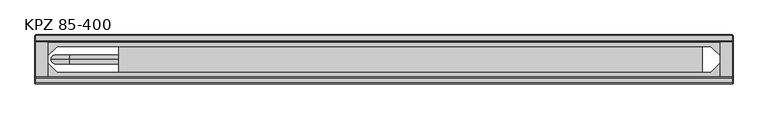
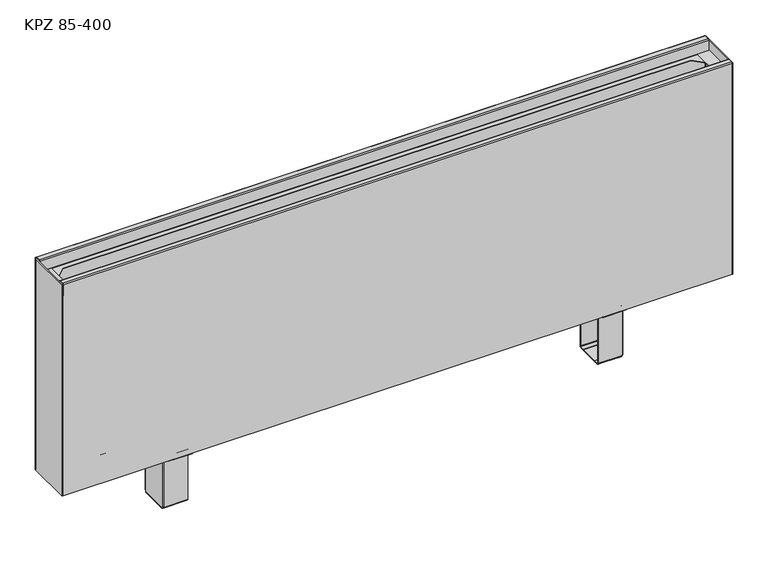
"""IFC4 building model written with IfcOpenShell, lengths in millimetres: proxy geometry, TECHNO_Конвектор напольный_Vita KPZ 85 : KPZ 85-400."""

from ifc_helpers import new_model, si_unit, point, frame, origin, place, context, project, spatial, polyline, circle_curve, ellipse_curve, trimmed, outline, extrude, source, transform, mapped, element, save
from ifc_brep_helpers import plane_surface, cylinder_surface, revolved_surface, advanced_brep


def kpz_85_400_00b2fc51(model_context):
    return source(origin(), model_context, "Body", "SolidModel", [
        advanced_brep(
        [(409.7, -116.8, 1.5), (409.7, -114.5, 3.8), (409.7, -114.5, 4.9), (409.7, -116.0, 4.9), (409.7, -116.0, 3.8), (409.7, -116.8, 3.0), (409.7, -124.5, 3.0), (409.7, -124.5, 1.5), (409.7, -117.6, 1.5), (409.7, -114.5, 97.7), (409.7, -113.7, 98.5), (409.7, -101.0, 98.5), (409.7, -101.0, 100.0), (409.7, -113.7, 100.0), (409.7, -116.0, 97.7), (409.7, -116.0, 95.5), (409.7, -114.5, 95.5), (409.7, -170.5, 3.8), (409.7, -168.2, 1.5), (409.7, -167.4, 1.5), (409.7, -160.5, 1.5), (409.7, -160.5, 3.0), (409.7, -168.2, 3.0), (409.7, -169.0, 3.8), (409.7, -169.0, 4.9), (409.7, -170.5, 4.9), (409.7, -169.0, 97.7), (409.7, -171.3, 100.0), (409.7, -184.0, 100.0), (409.7, -184.0, 98.5), (409.7, -171.3, 98.5), (409.7, -170.5, 97.7), (409.7, -170.5, 95.5), (409.7, -169.0, 95.5), (367.0, -170.5, 97.7), (367.0, -171.3, 98.5), (367.0, -184.0, 98.5), (367.0, -184.0, 100.0), (367.0, -171.3, 100.0), (367.0, -169.0, 97.7), (367.0, -169.0, 3.8), (367.0, -168.2, 3.0), (367.0, -160.5, 3.0), (367.0, -160.5, 1.5), (367.0, -124.5, 1.5), (367.0, -124.5, 3.0), (367.0, -116.8, 3.0), (367.0, -116.0, 3.8), (367.0, -116.0, 97.7), (367.0, -113.7, 100.0), (367.0, -101.0, 100.0), (367.0, -101.0, 98.5), (367.0, -113.7, 98.5), (367.0, -114.5, 97.7), (367.0, -114.5, 3.8), (367.0, -116.8, 1.5), (367.0, -117.6, 1.5), (367.0, -117.6, 0.0), (367.0, -167.4, 0.0), (367.0, -167.4, 1.5), (367.0, -168.2, 1.5), (367.0, -170.5, 3.8), (410.5, -116.8, 95.5), (410.5, -168.2, 95.5), (412.0, -168.2, 95.5), (412.0, -116.8, 95.5), (412.0, -116.8, 4.9), (412.0, -117.6, 4.9), (410.5, -117.6, 4.9), (410.5, -116.8, 4.9), (410.5, -168.2, 4.9), (410.5, -167.4, 4.9), (412.0, -167.4, 4.9), (412.0, -168.2, 4.9), (410.5, -117.6, 2.3), (410.5, -167.4, 2.3), (412.0, -167.4, 2.3), (412.0, -117.6, 2.3), (409.7, -117.6, 0.0), (409.7, -167.4, 0.0)],
        [
            (0, 1, circle_curve(frame((409.7, -116.8, 3.8), z_axis=(1.0, 0.0, 0.0), x_axis=(0.0, -1.0, 0.0)), 2.3)),
            (1, 2),
            (2, 3),
            (3, 4),
            (4, 5, circle_curve(frame((409.7, -116.8, 3.8), z_axis=(-1.0, 0.0, 0.0), x_axis=(0.0, -1.0, 0.0)), 0.8)),
            (5, 6),
            (6, 7),
            (7, 8),
            (8, 0),
            (9, 10, circle_curve(frame((409.7, -113.7, 97.7), z_axis=(-1.0, 0.0, 0.0), x_axis=(0.0, -1.0, 0.0)), 0.8)),
            (10, 11),
            (11, 12),
            (12, 13),
            (13, 14, circle_curve(frame((409.7, -113.7, 97.7), z_axis=(1.0, 0.0, 0.0), x_axis=(0.0, -1.0, 0.0)), 2.3)),
            (14, 15),
            (15, 16),
            (16, 9),
            (17, 18, circle_curve(frame((409.7, -168.2, 3.8), z_axis=(1.0, 0.0, 0.0), x_axis=(0.0, -1.0, 0.0)), 2.3)),
            (18, 19),
            (19, 20),
            (20, 21),
            (21, 22),
            (22, 23, circle_curve(frame((409.7, -168.2, 3.8), z_axis=(-1.0, 0.0, 0.0), x_axis=(0.0, -1.0, 0.0)), 0.8)),
            (23, 24),
            (24, 25),
            (25, 17),
            (26, 27, circle_curve(frame((409.7, -171.3, 97.7), z_axis=(1.0, 0.0, 0.0), x_axis=(0.0, -1.0, 0.0)), 2.3)),
            (27, 28),
            (28, 29),
            (29, 30),
            (30, 31, circle_curve(frame((409.7, -171.3, 97.7), z_axis=(-1.0, 0.0, 0.0), x_axis=(0.0, -1.0, 0.0)), 0.8)),
            (31, 32),
            (32, 33),
            (33, 26),
            (34, 35, circle_curve(frame((367.0, -171.3, 97.7), z_axis=(1.0, 0.0, 0.0), x_axis=(0.0, -1.0, 0.0)), 0.8)),
            (35, 36),
            (36, 37),
            (37, 38),
            (38, 39, circle_curve(frame((367.0, -171.3, 97.7), z_axis=(-1.0, 0.0, 0.0), x_axis=(0.0, -1.0, 0.0)), 2.3)),
            (39, 40),
            (40, 41, circle_curve(frame((367.0, -168.2, 3.8), z_axis=(1.0, 0.0, 0.0), x_axis=(0.0, -1.0, 0.0)), 0.8)),
            (41, 42),
            (42, 43),
            (43, 44),
            (44, 45),
            (45, 46),
            (46, 47, circle_curve(frame((367.0, -116.8, 3.8), z_axis=(1.0, 0.0, 0.0), x_axis=(0.0, -1.0, 0.0)), 0.8)),
            (47, 48),
            (48, 49, circle_curve(frame((367.0, -113.7, 97.7), z_axis=(-1.0, 0.0, 0.0), x_axis=(0.0, -1.0, 0.0)), 2.3)),
            (49, 50),
            (50, 51),
            (51, 52),
            (52, 53, circle_curve(frame((367.0, -113.7, 97.7), z_axis=(1.0, 0.0, 0.0), x_axis=(0.0, -1.0, 0.0)), 0.8)),
            (53, 54),
            (54, 55, circle_curve(frame((367.0, -116.8, 3.8), z_axis=(-1.0, 0.0, 0.0), x_axis=(0.0, -1.0, 0.0)), 2.3)),
            (55, 56),
            (56, 57),
            (57, 58),
            (58, 59),
            (59, 60),
            (60, 61, circle_curve(frame((367.0, -168.2, 3.8), z_axis=(-1.0, 0.0, 0.0), x_axis=(0.0, -1.0, 0.0)), 2.3)),
            (61, 34),
            (30, 35),
            (34, 31),
            (29, 36),
            (28, 37),
            (27, 38),
            (26, 39),
            (33, 24),
            (23, 40),
            (22, 41),
            (5, 46),
            (45, 6),
            (4, 47),
            (3, 15),
            (14, 48),
            (13, 49),
            (12, 50),
            (11, 51),
            (10, 52),
            (9, 53),
            (16, 2),
            (1, 54),
            (0, 55),
            (8, 56),
            (17, 61),
            (60, 18),
            (25, 32),
            (21, 42),
            (20, 43),
            (59, 19),
            (44, 7),
            (15, 62, circle_curve(frame((409.7, -116.8, 95.5), z_axis=(0.0, 0.0, -1.0), x_axis=(-1.0, 0.0, 0.0)), 0.8)),
            (62, 63),
            (63, 33, circle_curve(frame((409.7, -168.2, 95.5), z_axis=(0.0, 0.0, -1.0), x_axis=(-1.0, 0.0, 0.0)), 0.8)),
            (32, 64, circle_curve(frame((409.7, -168.2, 95.5), z_axis=(0.0, 0.0, 1.0), x_axis=(-1.0, 0.0, 0.0)), 2.3)),
            (64, 65),
            (65, 16, circle_curve(frame((409.7, -116.8, 95.5), z_axis=(0.0, 0.0, 1.0), x_axis=(-1.0, 0.0, 0.0)), 2.3)),
            (2, 66, circle_curve(frame((409.7, -116.8, 4.9), z_axis=(0.0, 0.0, -1.0), x_axis=(-1.0, 0.0, 0.0)), 2.3)),
            (66, 67),
            (67, 68),
            (68, 69),
            (69, 3, circle_curve(frame((409.7, -116.8, 4.9), z_axis=(0.0, 0.0, 1.0), x_axis=(-1.0, 0.0, 0.0)), 0.8)),
            (24, 70, circle_curve(frame((409.7, -168.2, 4.9), z_axis=(0.0, 0.0, 1.0), x_axis=(-1.0, 0.0, 0.0)), 0.8)),
            (70, 71),
            (71, 72),
            (72, 73),
            (73, 25, circle_curve(frame((409.7, -168.2, 4.9), z_axis=(0.0, 0.0, -1.0), x_axis=(-1.0, 0.0, 0.0)), 2.3)),
            (69, 62),
            (68, 74),
            (74, 75),
            (75, 71),
            (70, 63),
            (64, 73),
            (72, 76),
            (76, 77),
            (77, 67),
            (66, 65),
            (8, 74, circle_curve(frame((409.7, -117.6, 2.3), z_axis=(0.0, -1.0, 0.0), x_axis=(-1.0, 0.0, 0.0)), 0.8)),
            (77, 78, circle_curve(frame((409.7, -117.6, 2.3), z_axis=(0.0, 1.0, 0.0), x_axis=(-1.0, 0.0, 0.0)), 2.3)),
            (78, 57),
            (58, 79),
            (79, 76, circle_curve(frame((409.7, -167.4, 2.3), z_axis=(0.0, -1.0, 0.0), x_axis=(-1.0, 0.0, 0.0)), 2.3)),
            (75, 19, circle_curve(frame((409.7, -167.4, 2.3), z_axis=(0.0, 1.0, 0.0), x_axis=(-1.0, 0.0, 0.0)), 0.8)),
            (20, 7),
            (79, 78),
        ],
        [
            plane_surface(frame((409.7, -172.1, 97.7), z_axis=(1.0, 0.0, 0.0), x_axis=(0.0, 0.0, 1.0))),
            plane_surface(frame((367.0, -172.1, 97.7), z_axis=(-1.0, 0.0, 0.0), x_axis=(0.0, 0.0, -1.0))),
            revolved_surface(polyline([(409.7, -172.10000000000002, 97.7), (367.0, -172.10000000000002, 97.7)]), (409.7, -171.3, 97.7), (1.0, 0.0, 0.0)),
            plane_surface(frame((367.0, -171.3, 98.5), z_axis=(0.0, 0.0, -1.0), x_axis=(1.0, 0.0, 0.0))),
            plane_surface(frame((367.0, -184.0, 98.5), z_axis=(0.0, -1.0, 0.0), x_axis=(1.0, 0.0, 0.0))),
            plane_surface(frame((367.0, -184.0, 100.0), z_axis=(0.0, 0.0, 1.0), x_axis=(1.0, 0.0, 0.0))),
            cylinder_surface(frame((409.7, -171.3, 97.7), z_axis=(-1.0, 0.0, 0.0), x_axis=(0.0, -1.0, 0.0)), 2.3),
            plane_surface(frame((367.0, -169.0, 97.7), z_axis=(0.0, 1.0, 3.6919938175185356e-12), x_axis=(1.0, 0.0, 0.0))),
            revolved_surface(polyline([(409.7, -169.0, 3.8), (367.0, -169.0, 3.8)]), (409.7, -168.2, 3.8), (1.0, 0.0, 0.0)),
            plane_surface(frame((367.0, -124.5, 3.0), z_axis=(0.0, 0.0, 1.0), x_axis=(1.0, 0.0, 0.0))),
            revolved_surface(polyline([(409.7, -117.6, 3.8), (367.0, -117.6, 3.8)]), (412.0, -116.8, 3.8), (1.0, 0.0, 0.0)),
            plane_surface(frame((367.0, -116.0, 3.8), z_axis=(0.0, -1.0, 0.0), x_axis=(1.0, 0.0, 0.0))),
            cylinder_surface(frame((412.0, -113.7, 97.7), z_axis=(-1.0, 0.0, 0.0), x_axis=(0.0, -1.0, 0.0)), 2.3),
            plane_surface(frame((367.0, -113.7, 100.0), z_axis=(0.0, 0.0, 1.0), x_axis=(1.0, 0.0, 0.0))),
            plane_surface(frame((367.0, -101.0, 100.0), z_axis=(0.0, 1.0, 0.0), x_axis=(1.0, 0.0, 0.0))),
            plane_surface(frame((367.0, -101.0, 98.5), z_axis=(0.0, 0.0, -1.0), x_axis=(1.0, 0.0, 0.0))),
            revolved_surface(polyline([(409.7, -114.5, 97.7), (367.0, -114.5, 97.7)]), (412.0, -113.7, 97.7), (1.0, 0.0, 0.0)),
            plane_surface(frame((367.0, -114.5, 97.7), z_axis=(0.0, 1.0, 0.0), x_axis=(1.0, 0.0, 0.0))),
            cylinder_surface(frame((412.0, -116.8, 3.8), z_axis=(-1.0, 0.0, 0.0), x_axis=(0.0, -1.0, 0.0)), 2.3),
            plane_surface(frame((367.0, -116.8, 1.5), z_axis=(0.0, 0.0, -1.0), x_axis=(1.0, 0.0, 0.0))),
            cylinder_surface(frame((409.7, -168.2, 3.8), z_axis=(-1.0, 0.0, 0.0), x_axis=(0.0, -1.0, 0.0)), 2.3),
            plane_surface(frame((367.0, -170.5, 3.8), z_axis=(0.0, -1.0, 0.0), x_axis=(1.0, 0.0, 0.0))),
            plane_surface(frame((367.0, -168.2, 3.0), z_axis=(0.0, 0.0, 1.0), x_axis=(1.0, 0.0, 0.0))),
            plane_surface(frame((367.0, -160.5, 3.0), z_axis=(0.0, 1.0, 0.0), x_axis=(1.0, 0.0, 0.0))),
            plane_surface(frame((367.0, -160.5, 1.5), z_axis=(0.0, 0.0, -1.0), x_axis=(1.0, 0.0, 0.0))),
            plane_surface(frame((367.0, -124.5, 1.5), z_axis=(0.0, -1.0, 0.0), x_axis=(1.0, 0.0, 0.0))),
            plane_surface(frame((409.7, -116.0, 95.5), z_axis=(0.0, 0.0, 1.0), x_axis=(0.0, -1.0, 0.0))),
            plane_surface(frame((409.7, -116.0, 4.9), z_axis=(0.0, 0.0, -1.0), x_axis=(0.0, 1.0, 0.0))),
            revolved_surface(polyline([(408.9, -116.8, 4.9), (408.9, -116.8, 95.5)]), (409.7, -116.8, 4.9), (0.0, 0.0, -1.0)),
            plane_surface(frame((410.5, -116.8, 95.5), z_axis=(-1.0, 0.0, 0.0), x_axis=(0.0, 0.0, -1.0))),
            plane_surface(frame((412.0, -117.6, 95.5), z_axis=(1.0, -4.3226800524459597e-10, 0.0), x_axis=(0.0, 0.0, -1.0))),
            cylinder_surface(frame((409.7, -116.8, 4.9), z_axis=(0.0, 0.0, 1.0), x_axis=(-1.0, 0.0, 0.0)), 2.3),
            cylinder_surface(frame((409.7, -168.2, 0.0), z_axis=(0.0, 0.0, 1.0), x_axis=(-1.0, 0.0, 0.0)), 2.3),
            revolved_surface(polyline([(408.9, -168.2, 4.9), (408.9, -168.2, 95.5)]), (409.7, -168.2, 0.0), (0.0, 0.0, -1.0)),
            plane_surface(frame((367.0, -117.6, 1.5), z_axis=(0.0, 1.0, 0.0), x_axis=(0.0, 0.0, 1.0))),
            plane_surface(frame((367.0, -167.4, 1.5), z_axis=(0.0, -1.0, 0.0), x_axis=(0.0, 0.0, -1.0))),
            plane_surface(frame((367.0, -117.6, 1.5), z_axis=(0.0, 0.0, 1.0), x_axis=(0.0, -1.0, 0.0))),
            revolved_surface(polyline([(408.9, -167.4, 2.3), (408.9, -117.6, 2.3)]), (409.7, -167.4, 2.3), (0.0, -1.0, 0.0)),
            cylinder_surface(frame((409.7, -167.4, 2.3), z_axis=(0.0, 1.0, 0.0), x_axis=(-1.0, 0.0, 0.0)), 2.3),
            plane_surface(frame((409.7, -117.6, 0.0), z_axis=(0.0, 0.0, -1.0), x_axis=(0.0, -1.0, 0.0))),
        ],
        [
            (0, [[1, 2, 3, 4, 5, 6, 7, 8, 9]]),
            (0, [[10, 11, 12, 13, 14, 15, 16, 17]]),
            (0, [[18, 19, 20, 21, 22, 23, 24, 25, 26]]),
            (0, [[27, 28, 29, 30, 31, 32, 33, 34]]),
            (1, [[35, 36, 37, 38, 39, 40, 41, 42, 43, 44, 45, 46, 47, 48, 49, 50, 51, 52, 53, 54, 55, 56, 57, 58, 59, 60, 61, 62]]),
            (2, [[-31, 63, -35, 64]]),
            (3, [[-30, 65, -36, -63]]),
            (4, [[-29, 66, -37, -65]]),
            (5, [[-28, 67, -38, -66]]),
            (6, [[-27, 68, -39, -67]]),
            (7, [[-40, -68, -34, 69, -24, 70]]),
            (8, [[-23, 71, -41, -70]]),
            (9, [[-6, 72, -46, 73]]),
            (10, [[-5, 74, -47, -72]]),
            (11, [[-48, -74, -4, 75, -15, 76]]),
            (12, [[-14, 77, -49, -76]]),
            (13, [[-13, 78, -50, -77]]),
            (14, [[-12, 79, -51, -78]]),
            (15, [[-11, 80, -52, -79]]),
            (16, [[-10, 81, -53, -80]]),
            (17, [[-54, -81, -17, 82, -2, 83]]),
            (18, [[-1, 84, -55, -83]]),
            (19, [[-84, -9, 85, -56]]),
            (20, [[-18, 86, -61, 87]]),
            (21, [[-62, -86, -26, 88, -32, -64]]),
            (22, [[-22, 89, -42, -71]]),
            (23, [[-21, 90, -43, -89]]),
            (24, [[-87, -60, 91, -19]]),
            (25, [[-7, -73, -45, 92]]),
            (26, [[93, 94, 95, -33, 96, 97, 98, -16]]),
            (27, [[99, 100, 101, 102, 103, -3]]),
            (27, [[104, 105, 106, 107, 108, -25]]),
            (28, [[-93, -75, -103, 109]]),
            (29, [[-94, -109, -102, 110, 111, 112, -105, 113]]),
            (30, [[-97, 114, -107, 115, 116, 117, -100, 118]]),
            (31, [[-98, -118, -99, -82]]),
            (32, [[-96, -88, -108, -114]]),
            (33, [[-95, -113, -104, -69]]),
            (34, [[-57, -85, 119, -110, -101, -117, 120, 121]]),
            (35, [[122, 123, -115, -106, -112, 124, -91, -59]]),
            (36, [[125, -92, -44, -90]]),
            (37, [[-119, -8, -125, -20, -124, -111]]),
            (38, [[-120, -116, -123, 126]]),
            (39, [[-121, -126, -122, -58]]),
        ],
    ),
        advanced_brep(
        [(-409.7, -168.2, 1.5), (-409.7, -170.5, 3.8), (-409.7, -170.5, 4.9), (-409.7, -169.0, 4.9), (-409.7, -169.0, 3.8), (-409.7, -168.2, 3.0), (-409.7, -160.5, 3.0), (-409.7, -160.5, 1.5), (-409.7, -167.4, 1.5), (-409.7, -170.5, 97.7), (-409.7, -171.3, 98.5), (-409.7, -184.0, 98.5), (-409.7, -184.0, 100.0), (-409.7, -171.3, 100.0), (-409.7, -169.0, 97.7), (-409.7, -169.0, 95.5), (-409.7, -170.5, 95.5), (-409.7, -114.5, 3.8), (-409.7, -116.8, 1.5), (-409.7, -117.6, 1.5), (-409.7, -124.5, 1.5), (-409.7, -124.5, 3.0), (-409.7, -116.8, 3.0), (-409.7, -116.0, 3.8), (-409.7, -116.0, 4.9), (-409.7, -114.5, 4.9), (-409.7, -116.0, 97.7), (-409.7, -113.7, 100.0), (-409.7, -101.0, 100.0), (-409.7, -101.0, 98.5), (-409.7, -113.7, 98.5), (-409.7, -114.5, 97.7), (-409.7, -114.5, 95.5), (-409.7, -116.0, 95.5), (-367.0, -114.5, 97.7), (-367.0, -113.7, 98.5), (-367.0, -101.0, 98.5), (-367.0, -101.0, 100.0), (-367.0, -113.7, 100.0), (-367.0, -116.0, 97.7), (-367.0, -116.0, 3.8), (-367.0, -116.8, 3.0), (-367.0, -124.5, 3.0), (-367.0, -124.5, 1.5), (-367.0, -160.5, 1.5), (-367.0, -160.5, 3.0), (-367.0, -168.2, 3.0), (-367.0, -169.0, 3.8), (-367.0, -169.0, 97.7), (-367.0, -171.3, 100.0), (-367.0, -184.0, 100.0), (-367.0, -184.0, 98.5), (-367.0, -171.3, 98.5), (-367.0, -170.5, 97.7), (-367.0, -170.5, 3.8), (-367.0, -168.2, 1.5), (-367.0, -167.4, 1.5), (-367.0, -167.4, 0.0), (-367.0, -117.6, 0.0), (-367.0, -117.6, 1.5), (-367.0, -116.8, 1.5), (-367.0, -114.5, 3.8), (-410.5, -168.2, 95.5), (-410.5, -116.8, 95.5), (-412.0, -116.8, 95.5), (-412.0, -168.2, 95.5), (-412.0, -168.2, 4.9), (-412.0, -167.4, 4.9), (-410.5, -167.4, 4.9), (-410.5, -168.2, 4.9), (-410.5, -116.8, 4.9), (-410.5, -117.6, 4.9), (-412.0, -117.6, 4.9), (-412.0, -116.8, 4.9), (-410.5, -167.4, 2.3), (-410.5, -117.6, 2.3), (-412.0, -117.6, 2.3), (-412.0, -167.4, 2.3), (-409.7, -167.4, 0.0), (-409.7, -117.6, 0.0)],
        [
            (0, 1, circle_curve(frame((-409.7, -168.2, 3.8), z_axis=(-1.0, 0.0, 0.0), x_axis=(0.0, 1.0, 0.0)), 2.3)),
            (1, 2),
            (2, 3),
            (3, 4),
            (4, 5, circle_curve(frame((-409.7, -168.2, 3.8), z_axis=(1.0, 0.0, 0.0), x_axis=(0.0, 1.0, 0.0)), 0.8)),
            (5, 6),
            (6, 7),
            (7, 8),
            (8, 0),
            (9, 10, circle_curve(frame((-409.7, -171.3, 97.7), z_axis=(1.0, 0.0, 0.0), x_axis=(0.0, 1.0, 0.0)), 0.8)),
            (10, 11),
            (11, 12),
            (12, 13),
            (13, 14, circle_curve(frame((-409.7, -171.3, 97.7), z_axis=(-1.0, 0.0, 0.0), x_axis=(0.0, 1.0, 0.0)), 2.3)),
            (14, 15),
            (15, 16),
            (16, 9),
            (17, 18, circle_curve(frame((-409.7, -116.8, 3.8), z_axis=(-1.0, 0.0, 0.0), x_axis=(0.0, 1.0, 0.0)), 2.3)),
            (18, 19),
            (19, 20),
            (20, 21),
            (21, 22),
            (22, 23, circle_curve(frame((-409.7, -116.8, 3.8), z_axis=(1.0, 0.0, 0.0), x_axis=(0.0, 1.0, 0.0)), 0.8)),
            (23, 24),
            (24, 25),
            (25, 17),
            (26, 27, circle_curve(frame((-409.7, -113.7, 97.7), z_axis=(-1.0, 0.0, 0.0), x_axis=(0.0, 1.0, 0.0)), 2.3)),
            (27, 28),
            (28, 29),
            (29, 30),
            (30, 31, circle_curve(frame((-409.7, -113.7, 97.7), z_axis=(1.0, 0.0, 0.0), x_axis=(0.0, 1.0, 0.0)), 0.8)),
            (31, 32),
            (32, 33),
            (33, 26),
            (34, 35, circle_curve(frame((-367.0, -113.7, 97.7), z_axis=(-1.0, 0.0, 0.0), x_axis=(0.0, 1.0, 0.0)), 0.8)),
            (35, 36),
            (36, 37),
            (37, 38),
            (38, 39, circle_curve(frame((-367.0, -113.7, 97.7), z_axis=(1.0, 0.0, 0.0), x_axis=(0.0, 1.0, 0.0)), 2.3)),
            (39, 40),
            (40, 41, circle_curve(frame((-367.0, -116.8, 3.8), z_axis=(-1.0, 0.0, 0.0), x_axis=(0.0, 1.0, 0.0)), 0.8)),
            (41, 42),
            (42, 43),
            (43, 44),
            (44, 45),
            (45, 46),
            (46, 47, circle_curve(frame((-367.0, -168.2, 3.8), z_axis=(-1.0, 0.0, 0.0), x_axis=(0.0, 1.0, 0.0)), 0.8)),
            (47, 48),
            (48, 49, circle_curve(frame((-367.0, -171.3, 97.7), z_axis=(1.0, 0.0, 0.0), x_axis=(0.0, 1.0, 0.0)), 2.3)),
            (49, 50),
            (50, 51),
            (51, 52),
            (52, 53, circle_curve(frame((-367.0, -171.3, 97.7), z_axis=(-1.0, 0.0, 0.0), x_axis=(0.0, 1.0, 0.0)), 0.8)),
            (53, 54),
            (54, 55, circle_curve(frame((-367.0, -168.2, 3.8), z_axis=(1.0, 0.0, 0.0), x_axis=(0.0, 1.0, 0.0)), 2.3)),
            (55, 56),
            (56, 57),
            (57, 58),
            (58, 59),
            (59, 60),
            (60, 61, circle_curve(frame((-367.0, -116.8, 3.8), z_axis=(1.0, 0.0, 0.0), x_axis=(0.0, 1.0, 0.0)), 2.3)),
            (61, 34),
            (30, 35),
            (34, 31),
            (29, 36),
            (28, 37),
            (27, 38),
            (26, 39),
            (33, 24),
            (23, 40),
            (22, 41),
            (5, 46),
            (45, 6),
            (4, 47),
            (3, 15),
            (14, 48),
            (13, 49),
            (12, 50),
            (11, 51),
            (10, 52),
            (9, 53),
            (16, 2),
            (1, 54),
            (0, 55),
            (8, 56),
            (17, 61),
            (60, 18),
            (25, 32),
            (21, 42),
            (20, 43),
            (59, 19),
            (44, 7),
            (15, 62, circle_curve(frame((-409.7, -168.2, 95.5), z_axis=(0.0, 0.0, -1.0), x_axis=(1.0, 0.0, 0.0)), 0.8)),
            (62, 63),
            (63, 33, circle_curve(frame((-409.7, -116.8, 95.5), z_axis=(0.0, 0.0, -1.0), x_axis=(1.0, 0.0, 0.0)), 0.8)),
            (32, 64, circle_curve(frame((-409.7, -116.8, 95.5), z_axis=(0.0, 0.0, 1.0), x_axis=(1.0, 0.0, 0.0)), 2.3)),
            (64, 65),
            (65, 16, circle_curve(frame((-409.7, -168.2, 95.5), z_axis=(0.0, 0.0, 1.0), x_axis=(1.0, 0.0, 0.0)), 2.3)),
            (2, 66, circle_curve(frame((-409.7, -168.2, 4.9), z_axis=(0.0, 0.0, -1.0), x_axis=(1.0, 0.0, 0.0)), 2.3)),
            (66, 67),
            (67, 68),
            (68, 69),
            (69, 3, circle_curve(frame((-409.7, -168.2, 4.9), z_axis=(0.0, 0.0, 1.0), x_axis=(1.0, 0.0, 0.0)), 0.8)),
            (24, 70, circle_curve(frame((-409.7, -116.8, 4.9), z_axis=(0.0, 0.0, 1.0), x_axis=(1.0, 0.0, 0.0)), 0.8)),
            (70, 71),
            (71, 72),
            (72, 73),
            (73, 25, circle_curve(frame((-409.7, -116.8, 4.9), z_axis=(0.0, 0.0, -1.0), x_axis=(1.0, 0.0, 0.0)), 2.3)),
            (69, 62),
            (68, 74),
            (74, 75),
            (75, 71),
            (70, 63),
            (64, 73),
            (72, 76),
            (76, 77),
            (77, 67),
            (66, 65),
            (8, 74, circle_curve(frame((-409.7, -167.4, 2.3), z_axis=(0.0, 1.0, 0.0), x_axis=(1.0, 0.0, 0.0)), 0.8)),
            (77, 78, circle_curve(frame((-409.7, -167.4, 2.3), z_axis=(0.0, -1.0, 0.0), x_axis=(1.0, 0.0, 0.0)), 2.3)),
            (78, 57),
            (58, 79),
            (79, 76, circle_curve(frame((-409.7, -117.6, 2.3), z_axis=(0.0, 1.0, 0.0), x_axis=(1.0, 0.0, 0.0)), 2.3)),
            (75, 19, circle_curve(frame((-409.7, -117.6, 2.3), z_axis=(0.0, -1.0, 0.0), x_axis=(1.0, 0.0, 0.0)), 0.8)),
            (20, 7),
            (79, 78),
        ],
        [
            plane_surface(frame((-409.7, -112.9, 97.7), z_axis=(-1.0, 0.0, 0.0), x_axis=(0.0, 0.0, 1.0))),
            plane_surface(frame((-367.0, -112.9, 97.7), z_axis=(1.0, 0.0, 0.0), x_axis=(0.0, 0.0, -1.0))),
            revolved_surface(polyline([(-409.7, -112.9, 97.7), (-367.0, -112.9, 97.7)]), (-409.7, -113.7, 97.7), (-1.0, 0.0, 0.0)),
            plane_surface(frame((-367.0, -113.7, 98.5), z_axis=(0.0, 0.0, -1.0), x_axis=(-1.0, 0.0, 0.0))),
            plane_surface(frame((-367.0, -101.0, 98.5), z_axis=(0.0, 1.0, 0.0), x_axis=(-1.0, 0.0, 0.0))),
            plane_surface(frame((-367.0, -101.0, 100.0), z_axis=(0.0, 0.0, 1.0), x_axis=(-1.0, 0.0, 0.0))),
            cylinder_surface(frame((-409.7, -113.7, 97.7), z_axis=(1.0, 0.0, 0.0), x_axis=(0.0, 1.0, 0.0)), 2.3),
            plane_surface(frame((-367.0, -116.0, 97.7), z_axis=(0.0, -1.0, 3.6919938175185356e-12), x_axis=(-1.0, 0.0, 0.0))),
            revolved_surface(polyline([(-409.7, -116.0, 3.8), (-367.0, -116.0, 3.8)]), (-409.7, -116.8, 3.8), (-1.0, 0.0, 0.0)),
            plane_surface(frame((-367.0, -160.5, 3.0), z_axis=(0.0, 0.0, 1.0), x_axis=(-1.0, 0.0, 0.0))),
            revolved_surface(polyline([(-409.7, -167.39999999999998, 3.8), (-367.0, -167.39999999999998, 3.8)]), (-412.0, -168.2, 3.8), (-1.0, 0.0, 0.0)),
            plane_surface(frame((-367.0, -169.0, 3.8), z_axis=(0.0, 1.0, 0.0), x_axis=(-1.0, 0.0, 0.0))),
            cylinder_surface(frame((-412.0, -171.3, 97.7), z_axis=(1.0, 0.0, 0.0), x_axis=(0.0, 1.0, 0.0)), 2.3),
            plane_surface(frame((-367.0, -171.3, 100.0), z_axis=(0.0, 0.0, 1.0), x_axis=(-1.0, 0.0, 0.0))),
            plane_surface(frame((-367.0, -184.0, 100.0), z_axis=(0.0, -1.0, 0.0), x_axis=(-1.0, 0.0, 0.0))),
            plane_surface(frame((-367.0, -184.0, 98.5), z_axis=(0.0, 0.0, -1.0), x_axis=(-1.0, 0.0, 0.0))),
            revolved_surface(polyline([(-409.7, -170.5, 97.7), (-367.0, -170.5, 97.7)]), (-412.0, -171.3, 97.7), (-1.0, 0.0, 0.0)),
            plane_surface(frame((-367.0, -170.5, 97.7), z_axis=(0.0, -1.0, 0.0), x_axis=(-1.0, 0.0, 0.0))),
            cylinder_surface(frame((-412.0, -168.2, 3.8), z_axis=(1.0, 0.0, 0.0), x_axis=(0.0, 1.0, 0.0)), 2.3),
            plane_surface(frame((-367.0, -168.2, 1.5), z_axis=(0.0, 0.0, -1.0), x_axis=(-1.0, 0.0, 0.0))),
            cylinder_surface(frame((-409.7, -116.8, 3.8), z_axis=(1.0, 0.0, 0.0), x_axis=(0.0, 1.0, 0.0)), 2.3),
            plane_surface(frame((-367.0, -114.5, 3.8), z_axis=(0.0, 1.0, 0.0), x_axis=(-1.0, 0.0, 0.0))),
            plane_surface(frame((-367.0, -116.8, 3.0), z_axis=(0.0, 0.0, 1.0), x_axis=(-1.0, 0.0, 0.0))),
            plane_surface(frame((-367.0, -124.5, 3.0), z_axis=(0.0, -1.0, 0.0), x_axis=(-1.0, 0.0, 0.0))),
            plane_surface(frame((-367.0, -124.5, 1.5), z_axis=(0.0, 0.0, -1.0), x_axis=(-1.0, 0.0, 0.0))),
            plane_surface(frame((-367.0, -160.5, 1.5), z_axis=(0.0, 1.0, 0.0), x_axis=(-1.0, 0.0, 0.0))),
            plane_surface(frame((-409.7, -169.0, 95.5), z_axis=(0.0, 0.0, 1.0), x_axis=(0.0, 1.0, 0.0))),
            plane_surface(frame((-409.7, -169.0, 4.9), z_axis=(0.0, 0.0, -1.0), x_axis=(0.0, -1.0, 0.0))),
            revolved_surface(polyline([(-408.9, -168.2, 4.9), (-408.9, -168.2, 95.5)]), (-409.7, -168.2, 4.9), (0.0, 0.0, -1.0)),
            plane_surface(frame((-410.5, -168.2, 95.5), z_axis=(1.0, 0.0, 0.0), x_axis=(0.0, 0.0, -1.0))),
            plane_surface(frame((-412.0, -167.4, 95.5), z_axis=(-1.0, 4.322648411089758e-10, 0.0), x_axis=(0.0, 0.0, -1.0))),
            cylinder_surface(frame((-409.7, -168.2, 4.9), z_axis=(0.0, 0.0, 1.0), x_axis=(1.0, 0.0, 0.0)), 2.3),
            cylinder_surface(frame((-409.7, -116.8, 0.0), z_axis=(0.0, 0.0, 1.0), x_axis=(1.0, 0.0, 0.0)), 2.3),
            revolved_surface(polyline([(-408.9, -116.8, 4.9), (-408.9, -116.8, 95.5)]), (-409.7, -116.8, 0.0), (0.0, 0.0, -1.0)),
            plane_surface(frame((-367.0, -167.4, 1.5), z_axis=(0.0, -1.0, 0.0), x_axis=(0.0, 0.0, 1.0))),
            plane_surface(frame((-367.0, -117.6, 1.5), z_axis=(0.0, 1.0, 0.0), x_axis=(0.0, 0.0, -1.0))),
            plane_surface(frame((-367.0, -167.4, 1.5), z_axis=(0.0, 0.0, 1.0), x_axis=(0.0, 1.0, 0.0))),
            revolved_surface(polyline([(-408.9, -117.6, 2.3), (-408.9, -167.4, 2.3)]), (-409.7, -117.6, 2.3), (0.0, 1.0, 0.0)),
            cylinder_surface(frame((-409.7, -117.6, 2.3), z_axis=(0.0, -1.0, 0.0), x_axis=(1.0, 0.0, 0.0)), 2.3),
            plane_surface(frame((-409.7, -167.4, 0.0), z_axis=(0.0, 0.0, -1.0), x_axis=(0.0, 1.0, 0.0))),
        ],
        [
            (0, [[1, 2, 3, 4, 5, 6, 7, 8, 9]]),
            (0, [[10, 11, 12, 13, 14, 15, 16, 17]]),
            (0, [[18, 19, 20, 21, 22, 23, 24, 25, 26]]),
            (0, [[27, 28, 29, 30, 31, 32, 33, 34]]),
            (1, [[35, 36, 37, 38, 39, 40, 41, 42, 43, 44, 45, 46, 47, 48, 49, 50, 51, 52, 53, 54, 55, 56, 57, 58, 59, 60, 61, 62]]),
            (2, [[-31, 63, -35, 64]]),
            (3, [[-30, 65, -36, -63]]),
            (4, [[-29, 66, -37, -65]]),
            (5, [[-28, 67, -38, -66]]),
            (6, [[-27, 68, -39, -67]]),
            (7, [[-40, -68, -34, 69, -24, 70]]),
            (8, [[-23, 71, -41, -70]]),
            (9, [[-6, 72, -46, 73]]),
            (10, [[-5, 74, -47, -72]]),
            (11, [[-48, -74, -4, 75, -15, 76]]),
            (12, [[-14, 77, -49, -76]]),
            (13, [[-13, 78, -50, -77]]),
            (14, [[-12, 79, -51, -78]]),
            (15, [[-11, 80, -52, -79]]),
            (16, [[-10, 81, -53, -80]]),
            (17, [[-54, -81, -17, 82, -2, 83]]),
            (18, [[-1, 84, -55, -83]]),
            (19, [[-84, -9, 85, -56]]),
            (20, [[-18, 86, -61, 87]]),
            (21, [[-62, -86, -26, 88, -32, -64]]),
            (22, [[-22, 89, -42, -71]]),
            (23, [[-21, 90, -43, -89]]),
            (24, [[-87, -60, 91, -19]]),
            (25, [[-7, -73, -45, 92]]),
            (26, [[93, 94, 95, -33, 96, 97, 98, -16]]),
            (27, [[99, 100, 101, 102, 103, -3]]),
            (27, [[104, 105, 106, 107, 108, -25]]),
            (28, [[-93, -75, -103, 109]]),
            (29, [[-94, -109, -102, 110, 111, 112, -105, 113]]),
            (30, [[-97, 114, -107, 115, 116, 117, -100, 118]]),
            (31, [[-98, -118, -99, -82]]),
            (32, [[-96, -88, -108, -114]]),
            (33, [[-95, -113, -104, -69]]),
            (34, [[-57, -85, 119, -110, -101, -117, 120, 121]]),
            (35, [[122, 123, -115, -106, -112, 124, -91, -59]]),
            (36, [[125, -92, -44, -90]]),
            (37, [[-119, -8, -125, -20, -124, -111]]),
            (38, [[-120, -116, -123, 126]]),
            (39, [[-121, -126, -122, -58]]),
        ],
    ),
        advanced_brep(
        [(-455.64, -142.5, 186.5), (-455.64, -142.5, 171.5), (-540.0, -142.5, 186.5), (-540.0, -142.5, 171.5), (-557.5, -142.5, 154.0), (-572.5, -142.5, 154.0), (-572.5, -142.5, 100.0), (-557.5, -142.5, 100.0)],
        [
            (0, 1, circle_curve(frame((-455.64, -142.5, 179.0), z_axis=(1.0, 0.0, 0.0), x_axis=(0.0, 0.0, -1.0)), 7.5)),
            (1, 0, circle_curve(frame((-455.64, -142.5, 179.0), z_axis=(1.0, 0.0, 0.0), x_axis=(0.0, 0.0, -1.0)), 7.5)),
            (0, 2),
            (2, 3, circle_curve(frame((-540.0, -142.5, 179.0), z_axis=(1.0, 0.0, 0.0), x_axis=(0.0, 0.0, -1.0)), 7.5)),
            (3, 1),
            (3, 2, circle_curve(frame((-540.0, -142.5, 179.0), z_axis=(1.0, 0.0, 0.0), x_axis=(0.0, 0.0, -1.0)), 7.5)),
            (4, 3, circle_curve(frame((-540.0, -142.5, 154.0), z_axis=(0.0, 1.0, 0.0), x_axis=(0.0, 0.0, 1.0)), 17.5)),
            (2, 5, circle_curve(frame((-540.0, -142.5, 154.0), z_axis=(0.0, -1.0, 0.0), x_axis=(0.0, 0.0, 1.0)), 32.5)),
            (5, 4, circle_curve(frame((-565.0, -142.5, 154.0), z_axis=(0.0, 0.0, 1.0), x_axis=(1.0, 0.0, 0.0)), 7.5)),
            (4, 5, circle_curve(frame((-565.0, -142.5, 154.0), z_axis=(0.0, 0.0, 1.0), x_axis=(1.0, 0.0, 0.0)), 7.5)),
            (6, 7, circle_curve(frame((-565.0, -142.5, 100.0), z_axis=(0.0, 0.0, -1.0), x_axis=(1.0, 0.0, 0.0)), 7.5)),
            (7, 6, circle_curve(frame((-565.0, -142.5, 100.0), z_axis=(0.0, 0.0, -1.0), x_axis=(1.0, 0.0, 0.0)), 7.5)),
            (5, 6),
            (7, 4),
        ],
        [
            plane_surface(frame((-455.64, -142.5, 179.0), z_axis=(1.0, 0.0, 0.0), x_axis=(0.0, -1.0, 0.0))),
            cylinder_surface(frame((-455.64, -142.5, 179.0), z_axis=(1.0, 0.0, 0.0), x_axis=(0.0, 0.0, -1.0)), 7.5),
            revolved_surface(trimmed(ellipse_curve(frame((-540.0, -142.5, 179.0), z_axis=(1.0, 0.0, 0.0), x_axis=(0.0, 0.0, -1.0)), 7.5, 7.5), [point((-540.0, -142.5, 186.5))], [point((-540.0, -142.5, 171.5))], True, "CARTESIAN"), (-540.0, -142.5, 154.0), (0.0, -1.0, 0.0)),
            revolved_surface(trimmed(ellipse_curve(frame((-540.0, -142.5, 179.0), z_axis=(1.0, 0.0, 0.0), x_axis=(0.0, 0.0, -1.0)), 7.5, 7.5), [point((-540.0, -142.5, 171.5))], [point((-540.0, -142.5, 186.5))], True, "CARTESIAN"), (-540.0, -142.5, 154.0), (0.0, -1.0, 0.0)),
            plane_surface(frame((-565.0, -142.5, 100.0), z_axis=(0.0, 0.0, -1.0), x_axis=(0.0, -1.0, 0.0))),
            cylinder_surface(frame((-565.0, -142.5, 154.0), z_axis=(0.0, 0.0, 1.0), x_axis=(1.0, 0.0, 0.0)), 7.5),
        ],
        [
            (0, [[1, 2]]),
            (1, [[-1, 3, 4, 5]]),
            (1, [[-2, -5, 6, -3]]),
            (2, [[7, -4, 8, 9]]),
            (3, [[-8, -6, -7, 10]]),
            (4, [[11, 12]]),
            (5, [[-9, 13, -12, 14]]),
            (5, [[-10, -14, -11, -13]]),
        ],
    ),
        advanced_brep(
        [(-455.64, -142.5, 136.5), (-455.64, -142.5, 121.5), (-522.5, -142.5, 136.5), (-507.5, -142.5, 121.5), (-522.5, -142.5, 100.0), (-507.5, -142.5, 100.0)],
        [
            (0, 1, circle_curve(frame((-455.64, -142.5, 129.0), z_axis=(1.0, 0.0, 0.0), x_axis=(0.0, 0.0, -1.0)), 7.5)),
            (1, 0, circle_curve(frame((-455.64, -142.5, 129.0), z_axis=(1.0, 0.0, 0.0), x_axis=(0.0, 0.0, -1.0)), 7.5)),
            (0, 2),
            (2, 3, ellipse_curve(frame((-515.0, -142.5, 129.0), z_axis=(0.7071067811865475, 0.0, 0.7071067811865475), x_axis=(0.7071067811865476, 0.0, -0.7071067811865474)), 10.6066017, 7.5)),
            (3, 1),
            (3, 2, ellipse_curve(frame((-515.0, -142.5, 129.0), z_axis=(0.7071067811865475, 0.0, 0.7071067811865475), x_axis=(0.7071067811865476, 0.0, -0.7071067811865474)), 10.6066017, 7.5)),
            (4, 5, circle_curve(frame((-515.0, -142.5, 100.0), z_axis=(0.0, 0.0, -1.0), x_axis=(1.0, 0.0, 0.0)), 7.5)),
            (5, 4, circle_curve(frame((-515.0, -142.5, 100.0), z_axis=(0.0, 0.0, -1.0), x_axis=(1.0, 0.0, 0.0)), 7.5)),
            (2, 4),
            (5, 3),
        ],
        [
            plane_surface(frame((-455.64, -142.5, 129.0), z_axis=(1.0, 0.0, 0.0), x_axis=(0.0, -1.0, 0.0))),
            cylinder_surface(frame((-455.64, -142.5, 129.0), z_axis=(1.0, 0.0, 0.0), x_axis=(0.0, 0.0, -1.0)), 7.5),
            plane_surface(frame((-515.0, -142.5, 100.0), z_axis=(0.0, 0.0, -1.0), x_axis=(0.0, -1.0, 0.0))),
            cylinder_surface(frame((-515.0, -142.5, 129.0), z_axis=(0.0, 0.0, 1.0), x_axis=(1.0, 0.0, 0.0)), 7.5),
        ],
        [
            (0, [[1, 2]]),
            (1, [[-1, 3, 4, 5]]),
            (1, [[-2, -5, 6, -3]]),
            (2, [[7, 8]]),
            (3, [[-4, 9, -8, 10]]),
            (3, [[-6, -10, -7, -9]]),
        ],
    ),
        extrude(outline(polyline([(547.36, -117.5), (547.36, -167.5), (-455.64, -167.5), (-455.64, -117.5), (547.36, -117.5)])), frame((0.0, 0.0, 104.7), z_axis=(0.0, 0.0, 1.0), x_axis=(1.0, 0.0, 0.0)), (0.0, 0.0, 1.0), 100.0),
        extrude(outline(polyline([(-585.5004, -102.0), (-585.5004, -183.0), (-599.0, -183.0), (-599.0, -102.0), (-585.5004, -102.0)])), frame((0.0, 0.0, 101.83), z_axis=(0.0, 0.0, 1.0), x_axis=(1.0, 0.0, 0.0)), (0.0, 0.0, 1.0), 1.0002),
        extrude(outline(polyline([(585.5004, -102.0), (599.0, -102.0), (599.0, -183.0), (585.5004, -183.0), (585.5004, -102.0)])), frame((0.0, 0.0, 101.83), z_axis=(0.0, 0.0, 1.0), x_axis=(1.0, 0.0, 0.0)), (0.0, 0.0, 1.0), 1.0002),
        extrude(outline(polyline([(-599.0, -172.2), (-599.0, -112.8), (-578.0, -112.8), (-578.0, -172.2), (-599.0, -172.2)])), frame((0.0, 0.0, 478.83), z_axis=(0.0, 0.0, 1.0), x_axis=(1.0, 0.0, 0.0)), (0.0, 0.0, 1.0), 1.0002),
        extrude(outline(polyline([(599.0, -172.2), (578.0, -172.2), (578.0, -112.8), (599.0, -112.8), (599.0, -172.2)])), frame((0.0, 0.0, 478.83), z_axis=(0.0, 0.0, 1.0), x_axis=(1.0, 0.0, 0.0)), (0.0, 0.0, 1.0), 1.0002),
        advanced_brep(
        [(-598.2, -101.8, 500.83), (-598.2, -100.0, 499.03), (-598.2, -101.0, 499.03), (-598.2, -101.0, 477.83), (-598.2, -138.5, 477.83), (-598.2, -138.5, 478.83), (-598.2, -112.8, 478.83), (-598.2, -112.0, 479.63), (-598.2, -112.0, 499.03), (-598.2, -110.2, 500.83), (-598.2, -183.2, 500.83), (-598.2, -174.8, 500.83), (-598.2, -173.0, 499.03), (-598.2, -173.0, 479.63), (-598.2, -172.2, 478.83), (-598.2, -146.5, 478.83), (-598.2, -146.5, 477.83), (-598.2, -184.0, 477.83), (-598.2, -184.0, 499.03), (-598.2, -185.0, 499.03), (598.2, -101.8, 500.83), (598.2, -110.2, 500.83), (598.2, -112.0, 499.03), (598.2, -112.0, 479.63), (598.2, -112.8, 478.83), (598.2, -138.5, 478.83), (598.2, -138.5, 477.83), (598.2, -101.0, 477.83), (598.2, -101.0, 499.03), (598.2, -100.0, 499.03), (598.2, -183.2, 500.83), (598.2, -185.0, 499.03), (598.2, -184.0, 499.03), (598.2, -184.0, 477.83), (598.2, -146.5, 477.83), (598.2, -146.5, 478.83), (598.2, -172.2, 478.83), (598.2, -173.0, 479.63), (598.2, -173.0, 499.03), (598.2, -174.8, 500.83), (-580.3, -138.5, 478.83), (-561.8, -120.0, 478.83), (561.8, -120.0, 478.83), (580.3, -138.5, 478.83), (-580.3, -138.5, 477.83), (580.3, -138.5, 477.83), (561.8, -120.0, 477.83), (-561.8, -120.0, 477.83), (598.2, -100.0, 100.0), (-598.2, -100.0, 100.0), (-598.2, -185.0, 100.0), (598.2, -185.0, 100.0), (580.3, -146.5, 477.83), (-580.3, -146.5, 477.83), (-561.8, -165.0, 477.83), (561.8, -165.0, 477.83), (-580.3, -146.5, 478.83), (580.3, -146.5, 478.83), (561.8, -165.0, 478.83), (-561.8, -165.0, 478.83), (-600.0, -101.8, 499.03), (-600.0, -183.2, 499.03), (-599.0, -183.2, 499.03), (-599.0, -101.8, 499.03), (600.0, -183.2, 499.03), (600.0, -101.8, 499.03), (599.0, -101.8, 499.03), (599.0, -183.2, 499.03), (600.0, -101.8, 100.0), (600.0, -183.2, 100.0), (-600.0, -183.2, 100.0), (-600.0, -101.8, 100.0), (599.0, -101.8, 100.0), (598.2, -101.0, 100.0), (598.2, -113.0, 100.0), (-598.2, -113.0, 100.0), (-598.2, -101.0, 100.0), (-599.0, -101.8, 100.0), (-599.0, -183.2, 100.0), (-598.2, -184.0, 100.0), (-598.2, -172.0, 100.0), (598.2, -172.0, 100.0), (598.2, -184.0, 100.0), (599.0, -183.2, 100.0), (-598.2, -101.0, 100.83), (598.2, -101.0, 100.83), (598.2, -184.0, 100.83), (-598.2, -184.0, 100.83), (-598.2, -113.0, 100.83), (598.2, -113.0, 100.83), (598.2, -172.0, 100.83), (-598.2, -172.0, 100.83)],
        [
            (0, 1, circle_curve(frame((-598.2, -101.8, 499.03), z_axis=(-1.0, 0.0, 0.0), x_axis=(0.0, 1.0, 0.0)), 1.8)),
            (1, 2),
            (2, 3),
            (3, 4),
            (4, 5),
            (5, 6),
            (6, 7, circle_curve(frame((-598.2, -112.8, 479.63), z_axis=(1.0, 0.0, 0.0), x_axis=(0.0, 1.0, 0.0)), 0.8)),
            (7, 8),
            (8, 9, circle_curve(frame((-598.2, -110.2, 499.03), z_axis=(-1.0, 0.0, 0.0), x_axis=(0.0, 1.0, 0.0)), 1.8)),
            (9, 0),
            (10, 11),
            (11, 12, circle_curve(frame((-598.2, -174.8, 499.03), z_axis=(-1.0, 0.0, 0.0), x_axis=(0.0, 1.0, 0.0)), 1.8)),
            (12, 13),
            (13, 14, circle_curve(frame((-598.2, -172.2, 479.63), z_axis=(1.0, 0.0, 0.0), x_axis=(0.0, 1.0, 0.0)), 0.8)),
            (14, 15),
            (15, 16),
            (16, 17),
            (17, 18),
            (18, 19),
            (19, 10, circle_curve(frame((-598.2, -183.2, 499.03), z_axis=(-1.0, 0.0, 0.0), x_axis=(0.0, 1.0, 0.0)), 1.8)),
            (20, 21),
            (21, 22, circle_curve(frame((598.2, -110.2, 499.03), z_axis=(1.0, 0.0, 0.0), x_axis=(0.0, 1.0, 0.0)), 1.8)),
            (22, 23),
            (23, 24, circle_curve(frame((598.2, -112.8, 479.63), z_axis=(-1.0, 0.0, 0.0), x_axis=(0.0, 1.0, 0.0)), 0.8)),
            (24, 25),
            (25, 26),
            (26, 27),
            (27, 28),
            (28, 29),
            (29, 20, circle_curve(frame((598.2, -101.8, 499.03), z_axis=(1.0, 0.0, 0.0), x_axis=(0.0, 1.0, 0.0)), 1.8)),
            (30, 31, circle_curve(frame((598.2, -183.2, 499.03), z_axis=(1.0, 0.0, 0.0), x_axis=(0.0, 1.0, 0.0)), 1.8)),
            (31, 32),
            (32, 33),
            (33, 34),
            (34, 35),
            (35, 36),
            (36, 37, circle_curve(frame((598.2, -172.2, 479.63), z_axis=(-1.0, 0.0, 0.0), x_axis=(0.0, 1.0, 0.0)), 0.8)),
            (37, 38),
            (38, 39, circle_curve(frame((598.2, -174.8, 499.03), z_axis=(1.0, 0.0, 0.0), x_axis=(0.0, 1.0, 0.0)), 1.8)),
            (39, 30),
            (9, 21),
            (20, 0),
            (8, 22),
            (7, 23),
            (6, 24),
            (5, 40),
            (40, 41),
            (41, 42),
            (42, 43),
            (43, 25),
            (4, 44),
            (44, 40),
            (43, 45),
            (45, 26),
            (45, 46),
            (46, 47),
            (47, 44),
            (3, 27),
            (1, 29),
            (29, 48),
            (48, 49),
            (49, 1),
            (19, 31),
            (30, 10),
            (19, 50),
            (50, 51),
            (51, 31),
            (52, 34),
            (33, 17),
            (16, 53),
            (53, 54),
            (54, 55),
            (55, 52),
            (15, 56),
            (56, 53),
            (52, 57),
            (57, 35),
            (14, 36),
            (57, 58),
            (58, 59),
            (59, 56),
            (13, 37),
            (12, 38),
            (11, 39),
            (42, 46),
            (41, 47),
            (58, 55),
            (54, 59),
            (1, 60, circle_curve(frame((-598.2, -101.8, 499.03), z_axis=(0.0, 0.0, 1.0), x_axis=(1.0, 0.0, 0.0)), 1.8)),
            (60, 61),
            (61, 19, circle_curve(frame((-598.2, -183.2, 499.03), z_axis=(0.0, 0.0, 1.0), x_axis=(1.0, 0.0, 0.0)), 1.8)),
            (18, 62, circle_curve(frame((-598.2, -183.2, 499.03), z_axis=(0.0, 0.0, -1.0), x_axis=(1.0, 0.0, 0.0)), 0.8)),
            (62, 63),
            (63, 2, circle_curve(frame((-598.2, -101.8, 499.03), z_axis=(0.0, 0.0, -1.0), x_axis=(1.0, 0.0, 0.0)), 0.8)),
            (31, 64, circle_curve(frame((598.2, -183.2, 499.03), z_axis=(0.0, 0.0, 1.0), x_axis=(1.0, 0.0, 0.0)), 1.8)),
            (64, 65),
            (65, 29, circle_curve(frame((598.2, -101.8, 499.03), z_axis=(0.0, 0.0, 1.0), x_axis=(1.0, 0.0, 0.0)), 1.8)),
            (28, 66, circle_curve(frame((598.2, -101.8, 499.03), z_axis=(0.0, 0.0, -1.0), x_axis=(1.0, 0.0, 0.0)), 0.8)),
            (66, 67),
            (67, 32, circle_curve(frame((598.2, -183.2, 499.03), z_axis=(0.0, 0.0, -1.0), x_axis=(1.0, 0.0, 0.0)), 0.8)),
            (48, 68, circle_curve(frame((598.2, -101.8, 100.0), z_axis=(0.0, 0.0, -1.0), x_axis=(1.0, 0.0, 0.0)), 1.8)),
            (68, 69),
            (69, 51, circle_curve(frame((598.2, -183.2, 100.0), z_axis=(0.0, 0.0, -1.0), x_axis=(1.0, 0.0, 0.0)), 1.8)),
            (50, 70, circle_curve(frame((-598.2, -183.2, 100.0), z_axis=(0.0, 0.0, -1.0), x_axis=(1.0, 0.0, 0.0)), 1.8)),
            (70, 71),
            (71, 49, circle_curve(frame((-598.2, -101.8, 100.0), z_axis=(0.0, 0.0, -1.0), x_axis=(1.0, 0.0, 0.0)), 1.8)),
            (72, 73, circle_curve(frame((598.2, -101.8, 100.0), z_axis=(0.0, 0.0, 1.0), x_axis=(1.0, 0.0, 0.0)), 0.8)),
            (73, 74),
            (74, 75),
            (75, 76),
            (76, 77, circle_curve(frame((-598.2, -101.8, 100.0), z_axis=(0.0, 0.0, 1.0), x_axis=(1.0, 0.0, 0.0)), 0.8)),
            (77, 78),
            (78, 79, circle_curve(frame((-598.2, -183.2, 100.0), z_axis=(0.0, 0.0, 1.0), x_axis=(1.0, 0.0, 0.0)), 0.8)),
            (79, 80),
            (80, 81),
            (81, 82),
            (82, 83, circle_curve(frame((598.2, -183.2, 100.0), z_axis=(0.0, 0.0, 1.0), x_axis=(1.0, 0.0, 0.0)), 0.8)),
            (83, 72),
            (71, 60),
            (63, 77),
            (76, 84),
            (84, 3),
            (84, 85),
            (85, 27),
            (85, 73),
            (72, 66),
            (83, 67),
            (64, 69),
            (68, 65),
            (82, 86),
            (86, 33),
            (86, 87),
            (87, 17),
            (87, 79),
            (78, 62),
            (70, 61),
            (88, 89),
            (89, 85),
            (84, 88),
            (90, 91),
            (91, 87),
            (86, 90),
            (74, 89),
            (88, 75),
            (80, 91),
            (90, 81),
        ],
        [
            plane_surface(frame((-598.2, -110.2, 500.83), z_axis=(-1.0, 0.0, 0.0), x_axis=(0.0, 1.0, 0.0))),
            plane_surface(frame((598.2, -110.2, 500.83), z_axis=(1.0, 0.0, 0.0), x_axis=(0.0, -1.0, 0.0))),
            plane_surface(frame((598.2, -101.8, 500.83), z_axis=(0.0, 0.0, 1.0), x_axis=(-1.0, 0.0, 0.0))),
            cylinder_surface(frame((-598.2, -110.2, 499.03), z_axis=(1.0, 0.0, 0.0), x_axis=(0.0, 1.0, 0.0)), 1.8),
            plane_surface(frame((598.2, -112.0, 499.03), z_axis=(0.0, -1.0, 0.0), x_axis=(-1.0, 0.0, 0.0))),
            revolved_surface(polyline([(-598.2, -112.0, 479.63), (598.2, -112.0, 479.63)]), (-598.2, -112.8, 479.63), (-1.0, 0.0, 0.0)),
            plane_surface(frame((598.2, -112.8, 478.83), z_axis=(0.0, 0.0, 1.0), x_axis=(-1.0, 0.0, 0.0))),
            plane_surface(frame((598.2, -138.5, 478.83), z_axis=(0.0, -1.0, 0.0), x_axis=(-1.0, 0.0, 0.0))),
            plane_surface(frame((598.2, -138.5, 477.83), z_axis=(0.0, 0.0, -1.0), x_axis=(-1.0, 0.0, 0.0))),
            plane_surface(frame((598.2, -100.0, 477.83), z_axis=(0.0, 1.0, 0.0), x_axis=(-1.0, 0.0, 0.0))),
            cylinder_surface(frame((-598.2, -101.8, 499.03), z_axis=(1.0, 0.0, 0.0), x_axis=(0.0, 1.0, 0.0)), 1.8),
            cylinder_surface(frame((0.0, -183.2, 499.03), z_axis=(1.0, 0.0, 0.0), x_axis=(0.0, 1.0, 0.0)), 1.8),
            plane_surface(frame((598.2, -185.0, 499.03), z_axis=(0.0, -1.0, 0.0), x_axis=(-1.0, 0.0, 0.0))),
            plane_surface(frame((598.2, -185.0, 477.83), z_axis=(0.0, 0.0, -1.0), x_axis=(-1.0, 0.0, 0.0))),
            plane_surface(frame((598.2, -146.5, 477.83), z_axis=(0.0, 1.0, 0.0), x_axis=(-1.0, 0.0, 0.0))),
            plane_surface(frame((598.2, -146.5, 478.83), z_axis=(0.0, 0.0, 1.0), x_axis=(-1.0, 0.0, 0.0))),
            revolved_surface(polyline([(-598.2, -171.39999999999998, 479.63), (598.2, -171.39999999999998, 479.63)]), (0.0, -172.2, 479.63), (-1.0, 0.0, 0.0)),
            plane_surface(frame((598.2, -173.0, 479.63), z_axis=(0.0, 1.0, 0.0), x_axis=(-1.0, 0.0, 0.0))),
            cylinder_surface(frame((0.0, -174.8, 499.03), z_axis=(1.0, 0.0, 0.0), x_axis=(0.0, 1.0, 0.0)), 1.8),
            plane_surface(frame((598.2, -174.8, 500.83), z_axis=(0.0, 0.0, 1.0), x_axis=(-1.0, 0.0, 0.0))),
            plane_surface(frame((580.3, -138.5, 478.83), z_axis=(-0.7071067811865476, -0.7071067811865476, 0.0), x_axis=(0.0, 0.0, -1.0))),
            plane_surface(frame((561.8, -120.0, 478.83), z_axis=(0.0, -1.0, 0.0), x_axis=(0.0, 0.0, -1.0))),
            plane_surface(frame((-561.8, -120.0, 478.83), z_axis=(0.7071067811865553, -0.7071067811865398, 0.0), x_axis=(0.0, 0.0, -1.0))),
            plane_surface(frame((-561.8, -165.0, 478.83), z_axis=(0.0, 1.0, 0.0), x_axis=(0.0, 0.0, -1.0))),
            plane_surface(frame((561.8, -165.0, 478.83), z_axis=(-0.7071067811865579, 0.7071067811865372, 0.0), x_axis=(0.0, 0.0, -1.0))),
            plane_surface(frame((-580.3, -146.5, 478.83), z_axis=(0.7071067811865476, 0.7071067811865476, 0.0), x_axis=(0.0, 0.0, -1.0))),
            plane_surface(frame((-598.2, -100.0, 499.03), z_axis=(0.0, 0.0, 1.0), x_axis=(-1.0, 0.0, 0.0))),
            plane_surface(frame((-598.2, -100.0, 100.0), z_axis=(0.0, 0.0, -1.0), x_axis=(1.0, 0.0, 0.0))),
            cylinder_surface(frame((-598.2, -101.8, 100.0), z_axis=(0.0, 0.0, 1.0), x_axis=(1.0, 0.0, 0.0)), 1.8),
            revolved_surface(polyline([(-597.4000000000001, -101.8, 100.0), (-597.4000000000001, -101.8, 499.03)]), (-598.2, -101.8, 0.0), (0.0, 0.0, -1.0)),
            plane_surface(frame((-598.2, -101.0, 499.03), z_axis=(0.0, -1.0, 0.0), x_axis=(0.0, 0.0, -1.0))),
            revolved_surface(polyline([(599.0, -101.8, 100.0), (599.0, -101.8, 499.03)]), (598.2, -101.8, 0.0), (0.0, 0.0, -1.0)),
            plane_surface(frame((599.0, -101.8, 499.03), z_axis=(-1.0, 0.0, 0.0), x_axis=(0.0, 0.0, -1.0))),
            plane_surface(frame((600.0, -183.2, 499.03), z_axis=(1.0, 0.0, 0.0), x_axis=(0.0, 0.0, -1.0))),
            cylinder_surface(frame((598.2, -101.8, 100.0), z_axis=(0.0, 0.0, 1.0), x_axis=(1.0, 0.0, 0.0)), 1.8),
            cylinder_surface(frame((598.2, -183.2, 100.0), z_axis=(0.0, 0.0, 1.0), x_axis=(1.0, 0.0, 0.0)), 1.8),
            revolved_surface(polyline([(599.0, -183.2, 100.0), (599.0, -183.2, 499.03)]), (598.2, -183.2, 0.0), (0.0, 0.0, -1.0)),
            plane_surface(frame((598.2, -184.0, 499.03), z_axis=(0.0, 1.0, 0.0), x_axis=(0.0, 0.0, -1.0))),
            revolved_surface(polyline([(-597.4000000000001, -183.2, 100.0), (-597.4000000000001, -183.2, 499.03)]), (-598.2, -183.2, 0.0), (0.0, 0.0, -1.0)),
            plane_surface(frame((-600.0, -101.8, 499.03), z_axis=(-1.0, 0.0, 0.0), x_axis=(0.0, 0.0, -1.0))),
            cylinder_surface(frame((-598.2, -183.2, 100.0), z_axis=(0.0, 0.0, 1.0), x_axis=(1.0, 0.0, 0.0)), 1.8),
            plane_surface(frame((-599.0, -183.2, 499.03), z_axis=(1.0, 0.0, 0.0), x_axis=(0.0, 0.0, -1.0))),
            plane_surface(frame((598.2, -113.0, 100.83), z_axis=(0.0, 0.0, 1.0), x_axis=(1.0, 0.0, 0.0))),
            plane_surface(frame((-598.2, -113.0, 100.83), z_axis=(0.0, -1.0, 0.0), x_axis=(0.0, 0.0, -1.0))),
            plane_surface(frame((598.2, -113.0, 100.83), z_axis=(1.0, 0.0, 0.0), x_axis=(0.0, 0.0, -1.0))),
            plane_surface(frame((-598.2, -101.0, 100.83), z_axis=(-1.0, 0.0, 0.0), x_axis=(0.0, 0.0, -1.0))),
            plane_surface(frame((598.2, -172.0, 100.83), z_axis=(0.0, 1.0, 0.0), x_axis=(0.0, 0.0, -1.0))),
            plane_surface(frame((-598.2, -172.0, 100.83), z_axis=(-1.0, 0.0, 0.0), x_axis=(0.0, 0.0, -1.0))),
            plane_surface(frame((598.2, -184.0, 100.83), z_axis=(1.0, 0.0, 0.0), x_axis=(0.0, 0.0, -1.0))),
        ],
        [
            (0, [[1, 2, 3, 4, 5, 6, 7, 8, 9, 10]]),
            (0, [[11, 12, 13, 14, 15, 16, 17, 18, 19, 20]]),
            (1, [[21, 22, 23, 24, 25, 26, 27, 28, 29, 30]]),
            (1, [[31, 32, 33, 34, 35, 36, 37, 38, 39, 40]]),
            (2, [[-10, 41, -21, 42]]),
            (3, [[-9, 43, -22, -41]]),
            (4, [[-8, 44, -23, -43]]),
            (5, [[-7, 45, -24, -44]]),
            (6, [[-6, 46, 47, 48, 49, 50, -25, -45]]),
            (7, [[-5, 51, 52, -46]]),
            (7, [[-26, -50, 53, 54]]),
            (8, [[-54, 55, 56, 57, -51, -4, 58, -27]]),
            (9, [[59, 60, 61, 62]]),
            (10, [[-1, -42, -30, -59]]),
            (11, [[-20, 63, -31, 64]]),
            (12, [[-63, 65, 66, 67]]),
            (13, [[68, -34, 69, -17, 70, 71, 72, 73]]),
            (14, [[-16, 74, 75, -70]]),
            (14, [[-35, -68, 76, 77]]),
            (15, [[-15, 78, -36, -77, 79, 80, 81, -74]]),
            (16, [[-14, 82, -37, -78]]),
            (17, [[-13, 83, -38, -82]]),
            (18, [[-12, 84, -39, -83]]),
            (19, [[-11, -64, -40, -84]]),
            (20, [[85, -55, -53, -49]]),
            (21, [[-85, -48, 86, -56]]),
            (22, [[-86, -47, -52, -57]]),
            (23, [[87, -72, 88, -80]]),
            (24, [[-87, -79, -76, -73]]),
            (25, [[-88, -71, -75, -81]]),
            (26, [[89, 90, 91, -19, 92, 93, 94, -2]]),
            (26, [[95, 96, 97, -29, 98, 99, 100, -32]]),
            (27, [[101, 102, 103, -66, 104, 105, 106, -61], [107, 108, 109, 110, 111, 112, 113, 114, 115, 116, 117, 118]]),
            (28, [[-89, -62, -106, 119]]),
            (29, [[-94, 120, -111, 121, 122, -3]]),
            (30, [[-58, -122, 123, 124]]),
            (31, [[-98, -28, -124, 125, -107, 126]]),
            (32, [[-99, -126, -118, 127]]),
            (33, [[-96, 128, -102, 129]]),
            (34, [[-97, -129, -101, -60]]),
            (35, [[-95, -67, -103, -128]]),
            (36, [[-100, -127, -117, 130, 131, -33]]),
            (37, [[-69, -131, 132, 133]]),
            (38, [[-92, -18, -133, 134, -113, 135]]),
            (39, [[-90, -119, -105, 136]]),
            (40, [[-91, -136, -104, -65]]),
            (41, [[-93, -135, -112, -120]]),
            (42, [[137, 138, -123, 139]]),
            (42, [[140, 141, -132, 142]]),
            (43, [[-109, 143, -137, 144]]),
            (44, [[-108, -125, -138, -143]]),
            (45, [[-110, -144, -139, -121]]),
            (46, [[-115, 145, -140, 146]]),
            (47, [[-114, -134, -141, -145]]),
            (48, [[-116, -146, -142, -130]]),
        ],
    ),
    ])


if __name__ == "__main__":
    model = new_model("IFC4")
    model_context = context("Model", 3, world=origin())
    ifc_project = project(units=[si_unit("LENGTHUNIT", "METRE", prefix="MILLI")], contexts=[model_context])
    site = spatial("IfcSite", under=ifc_project)
    building = spatial("IfcBuilding", under=site)
    placement = place(None, origin())
    kpz_85_400_shape = kpz_85_400_00b2fc51(model_context)
    element("IfcBuildingElementProxy", 1, Name="TECHNO_Конвектор напольный_Vita KPZ 85 : KPZ 85-400", ObjectType="TECHNO_Конвектор напольный_Vita KPZ 85 : KPZ 85-400", at=placement, inside=building, context=model_context, shape_type="MappedRepresentation", body=[
        mapped(kpz_85_400_shape, transform((0.0, 0.0, 0.0), x_axis=(1.0, 0.0, 0.0), y_axis=(0.0, 1.0, 0.0), z_axis=(0.0, 0.0, 1.0))),
    ])
    save(model, "model.ifc")
